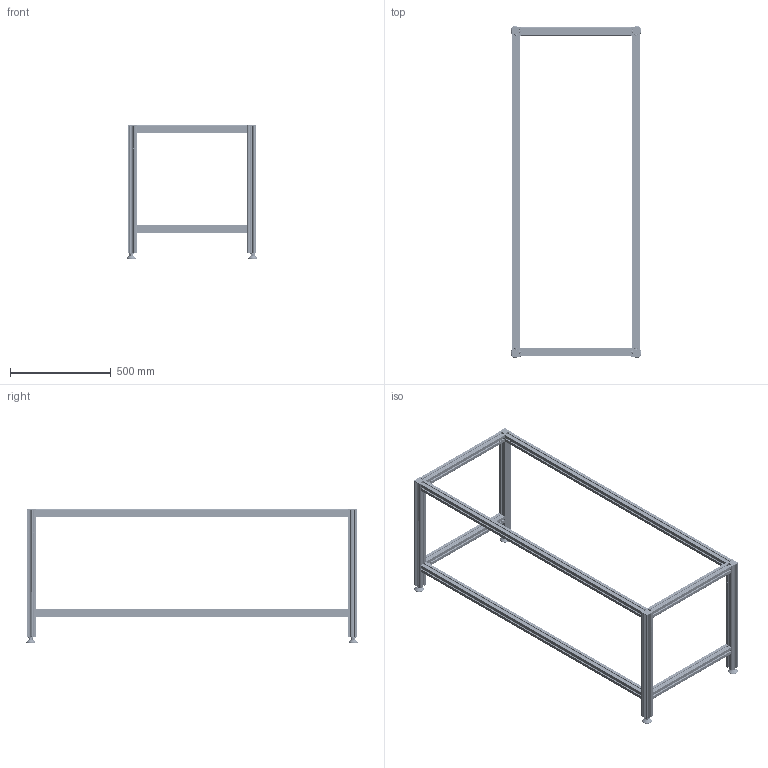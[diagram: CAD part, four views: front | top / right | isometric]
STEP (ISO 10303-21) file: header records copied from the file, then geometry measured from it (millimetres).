
FILE_DESCRIPTION(/* description */ ('Unknown'),/* implementation_level */ '2;1');
FILE_NAME(/* name */ '108.00403_eingefahren',/* time_stamp */ '2019-08-07T13:53:07+02:00',/* author */ ('Unknown'),/* organization */ ('Unknown'),/* preprocessor_version */ 'ST-DEVELOPER v16.7',/* originating_system */ 'DEX',/* authorisation */ $);
FILE_SCHEMA (('AP242_MANAGED_MODEL_BASED_3D_ENGINEERING_MIM_LF { 1 0 10303 442 1 1 4 }','AUTOMOTIVE_DESIGN {1 0 10303 214 3 1 1}'));
Length unit declared in the file: millimetre
Products named in the file (41): 108.00403; 115.00104; 119.00194; 142.00210; 115.00100; 119.00190; 306.00414_oa_0; 142.00014; 119.00224; 122.00005; 142.00020; 113.00002_70mm; 124.00125; 128.00040; 106.00404_oa_1; 107.00404_oa_2; 121.00004; 142.00005; 142.00021; 125.00021; 115.00007_oa_3; 125.00038; 120.00029; 122.00001; 123.00104; 125.00051; 306.00414_oa_4; 106.00404_oa_5; 107.00404_oa_6; 115.00007_oa_7; 306.00414_oa_8; 106.00404_oa_9; 107.00404_oa_10; 115.00007_oa_11; 306.00414_oa_12; 106.00404_oa_13; 107.00404_oa_14; 115.00007_oa_15; 113.00006; 113.00052_ohne Mutter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
Assembly tree (115 placements, depth 5):
  108.00403
    115.00104  x3
      119.00194
      142.00210
    115.00100  x4
      119.00190
      142.00210
    306.00414_oa_0
      142.00014  x2
      119.00224
      122.00005
      142.00020  x4
      113.00002_70mm
      124.00125
      128.00040
      106.00404_oa_1
        107.00404_oa_2
          121.00004
          142.00005
          142.00021
          125.00021
          115.00007_oa_3
          125.00038
          120.00029
          122.00001
        123.00104
        125.00051
    306.00414_oa_4
      142.00014  x2
      119.00224
      122.00005
      142.00020  x4
      113.00002_70mm
      124.00125
      128.00040
      106.00404_oa_5
        107.00404_oa_6
          121.00004
          142.00005
          142.00021
          125.00021
          115.00007_oa_7
          125.00038
          120.00029
          122.00001
        123.00104
        125.00051
    306.00414_oa_8
      142.00014  x2
      119.00224
      122.00005
      142.00020  x4
      113.00002_70mm
      124.00125
      128.00040
      106.00404_oa_9
        107.00404_oa_10
          121.00004
          142.00005
          142.00021
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Bounding box: 650.82 x 1650.82 x 663 mm (x, y, z)
Volume: 7925765.8 mm3; surface area: 5149394.4 mm2
Topology: 123 solids, 123 shells, 6373 faces, 17586 edges, 11317 vertices
Faces by surface type: plane 2808, cylinder 2703, cone 346, torus 210, bspline 176, sphere 130
Full cylindrical faces by diameter (mm): 2.2 x4, 2.5 x48, 3 x16, 3.5 x4, 4 x40, 4.1 x4, 4.2 x4, 5 x28, 6 x4, 6.647 x4, 6.917 x8, 7.763 x8, 7.8 x14, 8 x20, 8.1 x12, 8.376 x12, 9 x4, 9.5 x4, 10 x8, 11.3 x14, 11.5 x18, 12 x22, 12.2 x14, 13.5 x14, 13.7 x21, 13.9 x8, 14 x8, 15 x4, 16 x8, 17.3 x4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
Entity records: 51754 total; most frequent: CARTESIAN_POINT 10846, DIRECTION 8156, ORIENTED_EDGE 8034, EDGE_CURVE 4017, AXIS2_PLACEMENT_3D 2963, VERTEX_POINT 2690, LINE 2230, VECTOR 2230
